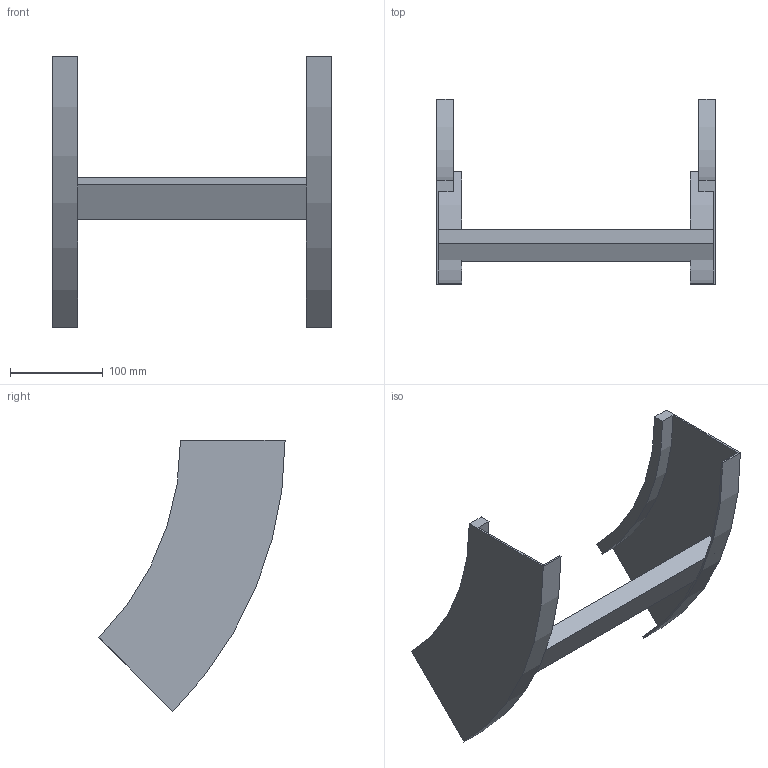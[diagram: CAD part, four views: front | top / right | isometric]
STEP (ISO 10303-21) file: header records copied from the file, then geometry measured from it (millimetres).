
FILE_DESCRIPTION (( 'STEP AP214' ), '1' );
FILE_NAME ('B2X31B3J300XX.step', '2025-03-20T10:07:45', ( '' ), ( '' ), 'SwSTEP 2.0', 'SolidWorks 2023', '' );
FILE_SCHEMA (( 'AUTOMOTIVE_DESIGN' ));
Length unit declared in the file: millimetre
Products named in the file (3): B2_LONGH.SALITA_45°_H112.5_R300; B2X31B3J300XX; TRAVERSINO_300
Assembly tree (3 placements, depth 2):
  B2X31B3J300XX
    B2_LONGH.SALITA_45°_H112.5_R300  x2
    TRAVERSINO_300
Bounding box: 300 x 200.37 x 291.68 mm (x, y, z)
Volume: 490275.7 mm3; surface area: 215151.9 mm2
Topology: 3 solids, 3 shells, 26 faces, 60 edges, 40 vertices
Faces by surface type: plane 18, cylinder 8
Entity records: 544 total; most frequent: DIRECTION 88, CARTESIAN_POINT 82, ORIENTED_EDGE 72, EDGE_CURVE 36, AXIS2_PLACEMENT_3D 30, VECTOR 28, LINE 28, VERTEX_POINT 24
